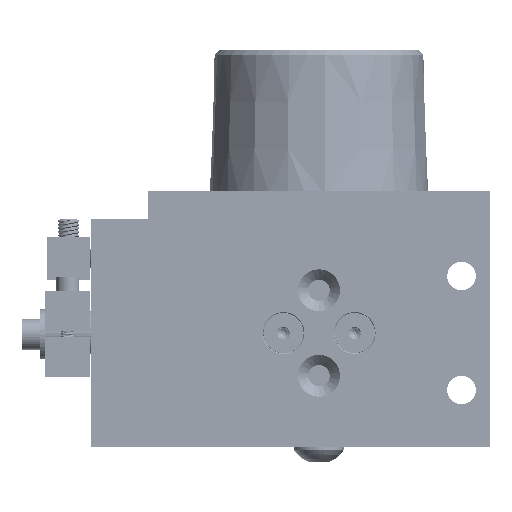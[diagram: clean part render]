
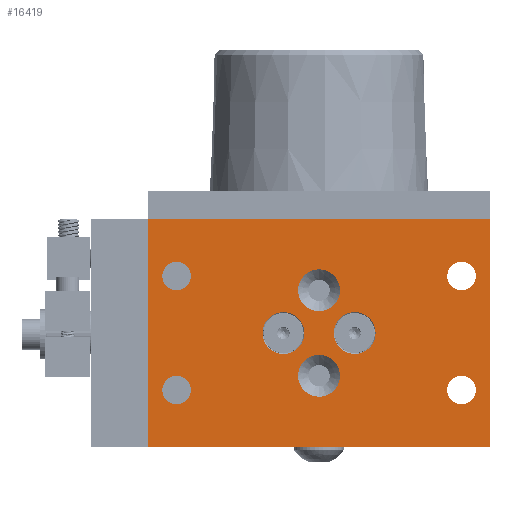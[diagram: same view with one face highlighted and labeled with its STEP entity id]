
A CAD part, front view. The second image highlights one B-rep face of the part: STEP entity #16419.
In plain terms, the highlighted planar face has unit normal (0, -1, 0).
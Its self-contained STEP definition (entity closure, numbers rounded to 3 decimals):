
#3635=FACE_BOUND('',#32827,.F.);
#3636=FACE_BOUND('',#32828,.F.);
#3637=FACE_BOUND('',#32829,.F.);
#3638=FACE_BOUND('',#32830,.F.);
#3639=FACE_BOUND('',#32831,.F.);
#3640=FACE_BOUND('',#32832,.F.);
#3641=FACE_BOUND('',#32833,.F.);
#3642=FACE_BOUND('',#32834,.F.);
#6878=PLANE('',#138964);
#16419=ADVANCED_FACE('',(#3635,#3636,#3637,#3638,#3639,#3640,#3641,#3642,
#24279),#6878,.T.);
#24279=FACE_OUTER_BOUND('',#32835,.F.);
#32827=EDGE_LOOP('',(#68415,#68416));
#32828=EDGE_LOOP('',(#68417,#68418));
#32829=EDGE_LOOP('',(#68419,#68420));
#32830=EDGE_LOOP('',(#68421,#68422));
#32831=EDGE_LOOP('',(#68423,#68424));
#32832=EDGE_LOOP('',(#68425,#68426));
#32833=EDGE_LOOP('',(#68427,#68428));
#32834=EDGE_LOOP('',(#68429,#68430));
#32835=EDGE_LOOP('',(#68431,#68432,#68433,#68434));
#68415=ORIENTED_EDGE('',*,*,#113324,.T.);
#68416=ORIENTED_EDGE('',*,*,#113323,.T.);
#68417=ORIENTED_EDGE('',*,*,#113332,.T.);
#68418=ORIENTED_EDGE('',*,*,#113331,.T.);
#68419=ORIENTED_EDGE('',*,*,#113342,.T.);
#68420=ORIENTED_EDGE('',*,*,#113341,.T.);
#68421=ORIENTED_EDGE('',*,*,#113350,.T.);
#68422=ORIENTED_EDGE('',*,*,#113349,.T.);
#68423=ORIENTED_EDGE('',*,*,#113346,.T.);
#68424=ORIENTED_EDGE('',*,*,#113345,.T.);
#68425=ORIENTED_EDGE('',*,*,#113338,.T.);
#68426=ORIENTED_EDGE('',*,*,#113337,.T.);
#68427=ORIENTED_EDGE('',*,*,#113328,.T.);
#68428=ORIENTED_EDGE('',*,*,#113327,.T.);
#68429=ORIENTED_EDGE('',*,*,#113320,.T.);
#68430=ORIENTED_EDGE('',*,*,#113319,.T.);
#68431=ORIENTED_EDGE('',*,*,#113363,.T.);
#68432=ORIENTED_EDGE('',*,*,#113374,.F.);
#68433=ORIENTED_EDGE('',*,*,#113369,.F.);
#68434=ORIENTED_EDGE('',*,*,#113375,.T.);
#85077=LINE('',#323437,#95370);
#85083=LINE('',#323443,#95376);
#85088=LINE('',#323448,#95381);
#85089=LINE('',#323449,#95382);
#95370=VECTOR('',#168269,50.8);
#95376=VECTOR('',#168275,50.8);
#95381=VECTOR('',#168280,76.2);
#95382=VECTOR('',#168281,76.2);
#113319=EDGE_CURVE('',#127484,#127483,#116413,.T.);
#113320=EDGE_CURVE('',#127483,#127484,#116414,.T.);
#113323=EDGE_CURVE('',#127480,#127479,#116417,.T.);
#113324=EDGE_CURVE('',#127479,#127480,#116418,.T.);
#113327=EDGE_CURVE('',#127476,#127475,#116421,.T.);
#113328=EDGE_CURVE('',#127475,#127476,#116422,.T.);
#113331=EDGE_CURVE('',#127472,#127471,#116425,.T.);
#113332=EDGE_CURVE('',#127471,#127472,#116426,.T.);
#113337=EDGE_CURVE('',#127466,#127465,#116431,.T.);
#113338=EDGE_CURVE('',#127465,#127466,#116432,.T.);
#113341=EDGE_CURVE('',#127462,#127461,#116435,.T.);
#113342=EDGE_CURVE('',#127461,#127462,#116436,.T.);
#113345=EDGE_CURVE('',#127458,#127457,#116439,.T.);
#113346=EDGE_CURVE('',#127457,#127458,#116440,.T.);
#113349=EDGE_CURVE('',#127454,#127453,#116443,.T.);
#113350=EDGE_CURVE('',#127453,#127454,#116444,.T.);
#113363=EDGE_CURVE('',#127439,#127440,#85077,.T.);
#113369=EDGE_CURVE('',#127433,#127434,#85083,.T.);
#113374=EDGE_CURVE('',#127434,#127440,#85088,.T.);
#113375=EDGE_CURVE('',#127433,#127439,#85089,.T.);
#116413=CIRCLE('',#138910,4.667);
#116414=CIRCLE('',#138911,4.667);
#116417=CIRCLE('',#138914,4.667);
#116418=CIRCLE('',#138915,4.667);
#116421=CIRCLE('',#138918,4.661);
#116422=CIRCLE('',#138919,4.661);
#116425=CIRCLE('',#138922,4.661);
#116426=CIRCLE('',#138923,4.661);
#116431=CIRCLE('',#138928,3.175);
#116432=CIRCLE('',#138929,3.175);
#116435=CIRCLE('',#138932,3.175);
#116436=CIRCLE('',#138933,3.175);
#116439=CIRCLE('',#138936,3.175);
#116440=CIRCLE('',#138937,3.175);
#116443=CIRCLE('',#138940,3.175);
#116444=CIRCLE('',#138941,3.175);
#127433=VERTEX_POINT('',#323341);
#127434=VERTEX_POINT('',#323342);
#127439=VERTEX_POINT('',#323347);
#127440=VERTEX_POINT('',#323348);
#127453=VERTEX_POINT('',#323361);
#127454=VERTEX_POINT('',#323362);
#127457=VERTEX_POINT('',#323365);
#127458=VERTEX_POINT('',#323366);
#127461=VERTEX_POINT('',#323369);
#127462=VERTEX_POINT('',#323370);
#127465=VERTEX_POINT('',#323373);
#127466=VERTEX_POINT('',#323374);
#127471=VERTEX_POINT('',#323379);
#127472=VERTEX_POINT('',#323380);
#127475=VERTEX_POINT('',#323383);
#127476=VERTEX_POINT('',#323384);
#127479=VERTEX_POINT('',#323387);
#127480=VERTEX_POINT('',#323388);
#127483=VERTEX_POINT('',#323391);
#127484=VERTEX_POINT('',#323392);
#138910=AXIS2_PLACEMENT_3D('',#323393,#168185,#168186);
#138911=AXIS2_PLACEMENT_3D('',#323394,#168187,#168188);
#138914=AXIS2_PLACEMENT_3D('',#323397,#168193,#168194);
#138915=AXIS2_PLACEMENT_3D('',#323398,#168195,#168196);
#138918=AXIS2_PLACEMENT_3D('',#323401,#168201,#168202);
#138919=AXIS2_PLACEMENT_3D('',#323402,#168203,#168204);
#138922=AXIS2_PLACEMENT_3D('',#323405,#168209,#168210);
#138923=AXIS2_PLACEMENT_3D('',#323406,#168211,#168212);
#138928=AXIS2_PLACEMENT_3D('',#323411,#168221,#168222);
#138929=AXIS2_PLACEMENT_3D('',#323412,#168223,#168224);
#138932=AXIS2_PLACEMENT_3D('',#323415,#168229,#168230);
#138933=AXIS2_PLACEMENT_3D('',#323416,#168231,#168232);
#138936=AXIS2_PLACEMENT_3D('',#323419,#168237,#168238);
#138937=AXIS2_PLACEMENT_3D('',#323420,#168239,#168240);
#138940=AXIS2_PLACEMENT_3D('',#323423,#168245,#168246);
#138941=AXIS2_PLACEMENT_3D('',#323424,#168247,#168248);
#138964=AXIS2_PLACEMENT_3D('',#323493,#168339,#168340);
#168185=DIRECTION('',(0.,-1.,0.));
#168186=DIRECTION('',(0.,0.,1.));
#168187=DIRECTION('',(0.,-1.,0.));
#168188=DIRECTION('',(0.,0.,-1.));
#168193=DIRECTION('',(0.,-1.,0.));
#168194=DIRECTION('',(0.,0.,1.));
#168195=DIRECTION('',(0.,-1.,0.));
#168196=DIRECTION('',(0.,0.,-1.));
#168201=DIRECTION('',(0.,-1.,0.));
#168202=DIRECTION('',(0.,0.,1.));
#168203=DIRECTION('',(0.,-1.,0.));
#168204=DIRECTION('',(0.,0.,-1.));
#168209=DIRECTION('',(0.,-1.,0.));
#168210=DIRECTION('',(0.,0.,1.));
#168211=DIRECTION('',(0.,-1.,0.));
#168212=DIRECTION('',(0.,0.,-1.));
#168221=DIRECTION('',(0.,-1.,0.));
#168222=DIRECTION('',(0.,0.,-1.));
#168223=DIRECTION('',(0.,-1.,0.));
#168224=DIRECTION('',(0.,0.,1.));
#168229=DIRECTION('',(0.,-1.,0.));
#168230=DIRECTION('',(0.,0.,-1.));
#168231=DIRECTION('',(0.,-1.,0.));
#168232=DIRECTION('',(0.,0.,1.));
#168237=DIRECTION('',(0.,-1.,0.));
#168238=DIRECTION('',(0.,0.,-1.));
#168239=DIRECTION('',(0.,-1.,0.));
#168240=DIRECTION('',(0.,0.,1.));
#168245=DIRECTION('',(0.,-1.,0.));
#168246=DIRECTION('',(0.,0.,-1.));
#168247=DIRECTION('',(0.,-1.,0.));
#168248=DIRECTION('',(0.,0.,1.));
#168269=DIRECTION('',(0.,0.,-1.));
#168275=DIRECTION('',(0.,0.,-1.));
#168280=DIRECTION('',(1.,0.,0.));
#168281=DIRECTION('',(1.,0.,0.));
#168339=DIRECTION('',(0.,-1.,0.));
#168340=DIRECTION('',(0.,0.,-1.));
#323341=CARTESIAN_POINT('',(66.468,-14.318,7.443));
#323342=CARTESIAN_POINT('',(66.468,-14.318,-43.357));
#323347=CARTESIAN_POINT('',(142.668,-14.318,7.443));
#323348=CARTESIAN_POINT('',(142.668,-14.318,-43.357));
#323361=CARTESIAN_POINT('',(136.318,-14.318,-2.082));
#323362=CARTESIAN_POINT('',(136.318,-14.318,-8.432));
#323365=CARTESIAN_POINT('',(136.318,-14.318,-27.482));
#323366=CARTESIAN_POINT('',(136.318,-14.318,-33.832));
#323369=CARTESIAN_POINT('',(72.818,-14.318,-27.482));
#323370=CARTESIAN_POINT('',(72.818,-14.318,-33.832));
#323373=CARTESIAN_POINT('',(72.818,-14.318,-2.082));
#323374=CARTESIAN_POINT('',(72.818,-14.318,-8.432));
#323379=CARTESIAN_POINT('',(96.631,-14.318,-22.618));
#323380=CARTESIAN_POINT('',(96.631,-14.318,-13.296));
#323383=CARTESIAN_POINT('',(112.506,-14.318,-22.618));
#323384=CARTESIAN_POINT('',(112.506,-14.318,-13.296));
#323387=CARTESIAN_POINT('',(104.568,-14.318,-32.149));
#323388=CARTESIAN_POINT('',(104.568,-14.318,-22.815));
#323391=CARTESIAN_POINT('',(104.568,-14.318,-13.099));
#323392=CARTESIAN_POINT('',(104.568,-14.318,-3.765));
#323393=CARTESIAN_POINT('',(104.568,-14.318,-8.432));
#323394=CARTESIAN_POINT('',(104.568,-14.318,-8.432));
#323397=CARTESIAN_POINT('',(104.568,-14.318,-27.482));
#323398=CARTESIAN_POINT('',(104.568,-14.318,-27.482));
#323401=CARTESIAN_POINT('',(112.506,-14.318,-17.957));
#323402=CARTESIAN_POINT('',(112.506,-14.318,-17.957));
#323405=CARTESIAN_POINT('',(96.631,-14.318,-17.957));
#323406=CARTESIAN_POINT('',(96.631,-14.318,-17.957));
#323411=CARTESIAN_POINT('',(72.818,-14.318,-5.257));
#323412=CARTESIAN_POINT('',(72.818,-14.318,-5.257));
#323415=CARTESIAN_POINT('',(72.818,-14.318,-30.657));
#323416=CARTESIAN_POINT('',(72.818,-14.318,-30.657));
#323419=CARTESIAN_POINT('',(136.318,-14.318,-30.657));
#323420=CARTESIAN_POINT('',(136.318,-14.318,-30.657));
#323423=CARTESIAN_POINT('',(136.318,-14.318,-5.257));
#323424=CARTESIAN_POINT('',(136.318,-14.318,-5.257));
#323437=CARTESIAN_POINT('',(142.668,-14.318,7.443));
#323443=CARTESIAN_POINT('',(66.468,-14.318,7.443));
#323448=CARTESIAN_POINT('',(66.468,-14.318,-43.357));
#323449=CARTESIAN_POINT('',(66.468,-14.318,7.443));
#323493=CARTESIAN_POINT('',(65.706,-14.318,8.205));
